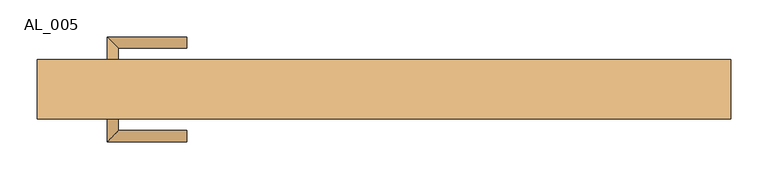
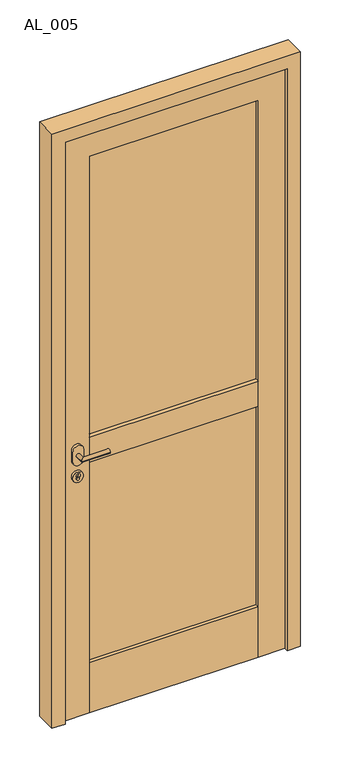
"""IFC4 building model written with IfcOpenShell, lengths in millimetres: door geometry, TRP_CP_ARC_PO_1B_RE : AL_005."""

import ifcopenshell
import ifcopenshell.guid

model = None  # the IFC model being written
_history = None  # IfcOwnerHistory: only IFC2X3 demands one
_inside = {}  # id of a spatial element -> (the spatial element, [elements in it])
_under = {}  # id of a project, library or spatial element -> (it, [spatial elements below it])
_declared = {}  # id of a project -> (the project, [libraries it declares])
_typed = {}  # id of a type object -> (the type object, [elements of that type])
_made_of = {}  # id of a material, layer set ... -> (it, [elements and type objects made of it])


def new_model(schema):
    """Start an empty IFC model of exactly this schema.

    Asked for "IFC4X3", IfcOpenShell would pick the latest addendum, in which some entities
    have other attributes; the version numbers below select the first issue.
    IFC2X3 requires an IfcOwnerHistory on every rooted entity: one is made here for all.
    """
    global model, _history
    if schema == "IFC4X3":
        model = ifcopenshell.file(schema_version=(4, 3, 0, 0))
    else:
        model = ifcopenshell.file(schema=schema)
    _inside.clear()
    _under.clear()
    _declared.clear()
    _typed.clear()
    _made_of.clear()
    _history = None
    if model.schema == "IFC2X3":
        org = make("IfcOrganization", Name="unknown")
        user = make(
            "IfcPersonAndOrganization",
            ThePerson=make("IfcPerson", FamilyName="unknown"),
            TheOrganization=org,
        )
        app = make(
            "IfcApplication",
            ApplicationDeveloper=org,
            Version="unknown",
            ApplicationFullName="unknown",
            ApplicationIdentifier="unknown",
        )
        _history = make(
            "IfcOwnerHistory",
            OwningUser=user,
            OwningApplication=app,
            ChangeAction="ADDED",
            CreationDate=0,
        )
    return model


def make(cls, **values):
    """One entity of the class cls with the attributes given. An attribute that is None is left unset."""
    return model.create_entity(
        cls, **{name: value for name, value in values.items() if value is not None}
    )


def rooted(cls, **values):
    """An entity with a GlobalId (a new one), such as an element, a storey or a relation."""
    return make(cls, GlobalId=ifcopenshell.guid.new(), OwnerHistory=_history, **values)


def si_unit(unit_type, name, prefix=None):
    """IfcSIUnit, for example si_unit("LENGTHUNIT", "METRE", prefix="MILLI")."""
    return make("IfcSIUnit", UnitType=unit_type, Prefix=prefix, Name=name)


def assignment(units):
    """IfcUnitAssignment: the units of a project."""
    return None if units is None else make("IfcUnitAssignment", Units=units)


def point(xyz):
    """IfcCartesianPoint."""
    return None if xyz is None else make("IfcCartesianPoint", Coordinates=xyz)


def direction(xyz):
    """IfcDirection."""
    return None if xyz is None else make("IfcDirection", DirectionRatios=xyz)


def frame(location, z_axis=None, x_axis=None):
    """IfcAxis2Placement3D, a coordinate frame: its origin and axes. An axis left out is left unset."""
    return make(
        "IfcAxis2Placement3D",
        Location=point(location),
        Axis=direction(z_axis),
        RefDirection=direction(x_axis),
    )


def frame_2d(location, x_axis=None):
    """IfcAxis2Placement2D, a coordinate frame in the plane: its origin and x axis."""
    return make(
        "IfcAxis2Placement2D", Location=point(location), RefDirection=direction(x_axis)
    )


def origin():
    """The frame at (0, 0, 0) with its axes left unset."""
    return frame((0.0, 0.0, 0.0))


def origin_with_axes():
    """The frame at (0, 0, 0) with the z axis (0, 0, 1) and the x axis (1, 0, 0) written out."""
    return frame((0.0, 0.0, 0.0), z_axis=(0.0, 0.0, 1.0), x_axis=(1.0, 0.0, 0.0))


def place(relative_to, where):
    """IfcLocalPlacement: puts the frame where relative to a parent placement (None: the world)."""
    return make(
        "IfcLocalPlacement", PlacementRelTo=relative_to, RelativePlacement=where
    )


def context(
    kind, dimensions, precision=None, world=None, true_north=None, identifier=None
):
    """IfcGeometricRepresentationContext, for example the 3D "Model" context."""
    return make(
        "IfcGeometricRepresentationContext",
        ContextIdentifier=identifier,
        ContextType=kind,
        CoordinateSpaceDimension=dimensions,
        Precision=precision,
        WorldCoordinateSystem=world,
        TrueNorth=true_north,
    )


def project(units=None, contexts=None):
    """IfcProject with its units and contexts."""
    return rooted(
        "IfcProject",
        Name="project",
        RepresentationContexts=contexts,
        UnitsInContext=assignment(units),
    )


def spatial(cls, under=None, at=None, **own):
    """A site, building, storey or space (cls), placed at a placement, below another one or the project."""
    s = rooted(cls, ObjectPlacement=at, **own)
    if under is not None:
        _under.setdefault(under.id(), (under, []))[1].append(s)
    return s


def polyline(points):
    """IfcPolyline through the points."""
    return make("IfcPolyline", Points=[point(p) for p in points])


def circle_curve(where, radius):
    """IfcCircle in the frame where."""
    return make("IfcCircle", Position=where, Radius=radius)


def ellipse_curve(where, semi_axis1, semi_axis2):
    """IfcEllipse in the frame where."""
    return make(
        "IfcEllipse", Position=where, SemiAxis1=semi_axis1, SemiAxis2=semi_axis2
    )


def trimmed(basis, trim1, trim2, sense, master):
    """IfcTrimmedCurve: the piece of a basis curve between two trims."""
    return make(
        "IfcTrimmedCurve",
        BasisCurve=basis,
        Trim1=trim1,
        Trim2=trim2,
        SenseAgreement=sense,
        MasterRepresentation=master,
    )


def segment(curve, same_sense, transition):
    """IfcCompositeCurveSegment."""
    return make(
        "IfcCompositeCurveSegment",
        Transition=transition,
        SameSense=same_sense,
        ParentCurve=curve,
    )


def composite_curve(segments, self_intersect=None):
    """IfcCompositeCurve: segments joined end to end."""
    return make("IfcCompositeCurve", Segments=segments, SelfIntersect=self_intersect)


def outline(outer, holes=None, kind="AREA"):
    """IfcArbitraryClosedProfileDef: a profile drawn as a closed curve; with holes, ...WithVoids."""
    if holes is None:
        return make("IfcArbitraryClosedProfileDef", ProfileType=kind, OuterCurve=outer)
    return make(
        "IfcArbitraryProfileDefWithVoids",
        ProfileType=kind,
        OuterCurve=outer,
        InnerCurves=holes,
    )


def extrude(swept, where, along, depth):
    """IfcExtrudedAreaSolid: the profile swept, set in the frame where, extruded along a direction by depth."""
    return make(
        "IfcExtrudedAreaSolid",
        SweptArea=swept,
        Position=where,
        ExtrudedDirection=direction(along),
        Depth=depth,
    )


def shape(context_of_items, identifier, shape_type, items):
    """IfcShapeRepresentation: the items that make up one representation, for example the "Body"."""
    return make(
        "IfcShapeRepresentation",
        ContextOfItems=context_of_items,
        RepresentationIdentifier=identifier,
        RepresentationType=shape_type,
        Items=items,
    )


def source(mapping_origin, context_of_items, identifier, shape_type, items):
    """IfcRepresentationMap: a shape defined once, which mapped items show again and again."""
    return make(
        "IfcRepresentationMap",
        MappingOrigin=mapping_origin,
        MappedRepresentation=shape(context_of_items, identifier, shape_type, items),
    )


def transform(
    local_origin,
    x_axis=None,
    y_axis=None,
    z_axis=None,
    scale=None,
    scale2=None,
    scale3=None,
    uniform=True,
):
    """IfcCartesianTransformationOperator3D, or its non-uniform kind. x_axis, y_axis, z_axis: its Axis1, 2, 3."""
    if uniform:
        return make(
            "IfcCartesianTransformationOperator3D",
            Axis1=direction(x_axis),
            Axis2=direction(y_axis),
            LocalOrigin=point(local_origin),
            Scale=scale,
            Axis3=direction(z_axis),
        )
    return make(
        "IfcCartesianTransformationOperator3DnonUniform",
        Axis1=direction(x_axis),
        Axis2=direction(y_axis),
        LocalOrigin=point(local_origin),
        Scale=scale,
        Axis3=direction(z_axis),
        Scale2=scale2,
        Scale3=scale3,
    )


def mapped(mapping_source, mapping_target):
    """IfcMappedItem: shows the shape of a source again, moved by a transform."""
    return make(
        "IfcMappedItem", MappingSource=mapping_source, MappingTarget=mapping_target
    )


def made_of(thing, what):
    """Note that an element or type object is made of a material, layer set ...; save() writes the relation."""
    if what is not None:
        _made_of.setdefault(what.id(), (what, []))[1].append(thing)
    return thing


def element(
    cls,
    number,
    at=None,
    inside=None,
    cuts=None,
    type_object=None,
    material=None,
    context=None,
    identifier="Body",
    shape_type=None,
    held_by="IfcProductDefinitionShape",
    body=None,
    shapes=None,
    **own,
):
    """One element of the class cls, such as IfcWall. Its Tag is "e" and its number.

    at: its placement. inside: the storey or other place that contains it. cuts: it is an
    opening in that element (IfcRelVoidsElement). A single representation is given by context,
    identifier, shape_type and body (its items); several are given by shapes. held_by: the class
    of the entity that holds the representations. save() writes the other relations.
    """
    e = rooted(cls, Tag="e%d" % number, ObjectPlacement=at, **own)
    if body is not None:
        shapes = [shape(context, identifier, shape_type, body)]
    if shapes is not None:
        e.Representation = make(held_by, Representations=shapes)
    if inside is not None:
        _inside.setdefault(inside.id(), (inside, []))[1].append(e)
    if cuts is not None:
        rooted(
            "IfcRelVoidsElement", RelatingBuildingElement=cuts, RelatedOpeningElement=e
        )
    if type_object is not None:
        _typed.setdefault(type_object.id(), (type_object, []))[1].append(e)
    return made_of(e, material)


def aggregate(whole, parts):
    """IfcRelAggregates: a whole, such as a stair, and the parts it consists of."""
    return rooted("IfcRelAggregates", RelatingObject=whole, RelatedObjects=parts)


def save(model, path):
    """Write the relations noted so far, then the file.

    IfcRelAggregates (storeys below a building ...), IfcRelContainedInSpatialStructure (elements
    in a storey), IfcRelDefinesByType, IfcRelAssociatesMaterial and IfcRelDeclares: one each for
    every whole, place, type object, material and project.
    """
    for whole, parts in _under.values():
        aggregate(whole, parts)
    for where, things in _inside.values():
        rooted(
            "IfcRelContainedInSpatialStructure",
            RelatedElements=things,
            RelatingStructure=where,
        )
    for kind, things in _typed.values():
        rooted("IfcRelDefinesByType", RelatedObjects=things, RelatingType=kind)
    for what, things in _made_of.values():
        rooted("IfcRelAssociatesMaterial", RelatedObjects=things, RelatingMaterial=what)
    for by, libraries in _declared.values():
        rooted("IfcRelDeclares", RelatingContext=by, RelatedDefinitions=libraries)
    model.write(path)


def plane_surface(at):
    """IfcPlane: the flat surface through the origin of the frame at, square to its z axis."""
    return make("IfcPlane", Position=at)


def cylinder_surface(at, radius):
    """IfcCylindricalSurface: all points at the distance radius from the z axis of the frame at."""
    return make("IfcCylindricalSurface", Position=at, Radius=radius)


def advanced_brep(points, edges, surfaces, faces):
    """IfcAdvancedBrep: a solid bounded by faces that lie on surfaces and meet in shared edges.

    An edge is (start, end): straight between two places in points (the first is 0);
    or (start, end, curve); or (start, end, curve, False) where it runs against its curve.
    A face is (place in surfaces, loops), or (place, loops, False) where it looks against
    its surface's normal. A loop lists edges by number (the first is 1), with a minus sign
    where the edge is run from its end to its start. The first loop is the outer one.
    """
    corners = [point(p) for p in points]
    vertices = [make("IfcVertexPoint", VertexGeometry=c) for c in corners]
    made = []
    for start, end, *more in edges:
        made.append(
            make(
                "IfcEdgeCurve",
                EdgeStart=vertices[start],
                EdgeEnd=vertices[end],
                EdgeGeometry=more[0] if more else make("IfcPolyline", Points=[corners[start], corners[end]]),
                SameSense=more[1] if len(more) > 1 else True,
            )
        )
    hull = []
    for where, loops, *sense in faces:
        bounds = []
        for j, loop in enumerate(loops):
            ring = [make("IfcOrientedEdge", EdgeElement=made[abs(k) - 1], Orientation=k > 0) for k in loop]
            bounds.append(
                make(
                    "IfcFaceOuterBound" if j == 0 else "IfcFaceBound",
                    Bound=make("IfcEdgeLoop", EdgeList=ring),
                    Orientation=True,
                )
            )
        hull.append(make("IfcAdvancedFace", Bounds=bounds, FaceSurface=surfaces[where], SameSense=sense[0] if sense else True))
    return make("IfcAdvancedBrep", Outer=make("IfcClosedShell", CfsFaces=hull))


def al_005_3a442bcf(model_context):
    return source(origin(), model_context, "Body", "SolidModel", [
        extrude(outline(composite_curve([segment(trimmed(circle_curve(frame_2d((962.6423564, -366.5958465)), 20.0), [point((962.6423564, -386.5958465))], [point((962.6423564, -346.5958465))], False, "CARTESIAN"), True, "CONTINUOUS"), segment(polyline([(962.6423564, -346.5958465), (964.4091537, -346.5958465)]), True, "CONTINUOUS"), segment(trimmed(circle_curve(frame_2d((964.4091537, -366.5958465)), 20.0), [point((964.4091537, -346.5958465))], [point((964.4091537, -386.5958465))], False, "CARTESIAN"), True, "CONTINUOUS"), segment(polyline([(964.4091537, -386.5958465), (962.6423564, -386.5958465)]), True, "CONTINUOUS")], self_intersect=False), holes=[composite_curve([segment(trimmed(circle_curve(frame_2d((968.375559, -366.2942691)), 7.5), [point((961.9945009, -370.2353473))], [point((961.7737354, -362.7353473))], True, "CARTESIAN"), True, "CONTINUOUS"), segment(polyline([(961.7737354, -362.7353473), (954.9866332, -362.7353473)]), True, "CONTINUOUS"), segment(trimmed(circle_curve(frame_2d((954.9866332, -366.4853473)), 3.75), [point((954.9866332, -362.7353473))], [point((954.9866332, -370.2353473))], True, "CARTESIAN"), True, "CONTINUOUS"), segment(polyline([(954.9866332, -370.2353473), (961.9945009, -370.2353473)]), True, "CONTINUOUS")], self_intersect=False)]), frame((0.0, -35.0, 0.0), z_axis=(0.0, 1.0, 0.0), x_axis=(0.0, 0.0, 1.0)), (0.0, 0.0, 1.0), 10.0),
        extrude(outline(composite_curve([segment(trimmed(circle_curve(frame_2d((962.6423564, -366.5958465)), 20.0), [point((962.6423564, -386.5958465))], [point((962.6423564, -346.5958465))], False, "CARTESIAN"), True, "CONTINUOUS"), segment(polyline([(962.6423564, -346.5958465), (964.4091537, -346.5958465)]), True, "CONTINUOUS"), segment(trimmed(circle_curve(frame_2d((964.4091537, -366.5958465)), 20.0), [point((964.4091537, -346.5958465))], [point((964.4091537, -386.5958465))], False, "CARTESIAN"), True, "CONTINUOUS"), segment(polyline([(964.4091537, -386.5958465), (962.6423564, -386.5958465)]), True, "CONTINUOUS")], self_intersect=False), holes=[composite_curve([segment(trimmed(circle_curve(frame_2d((968.375559, -366.2942691)), 7.5), [point((961.9945009, -370.2353473))], [point((961.7737354, -362.7353473))], True, "CARTESIAN"), True, "CONTINUOUS"), segment(polyline([(961.7737354, -362.7353473), (954.9866332, -362.7353473)]), True, "CONTINUOUS"), segment(trimmed(circle_curve(frame_2d((954.9866332, -366.4853473)), 3.75), [point((954.9866332, -362.7353473))], [point((954.9866332, -370.2353473))], True, "CARTESIAN"), True, "CONTINUOUS"), segment(polyline([(954.9866332, -370.2353473), (961.9945009, -370.2353473)]), True, "CONTINUOUS")], self_intersect=False)]), frame((0.0, -35.0, 0.0), z_axis=(0.0, 1.0, 0.0), x_axis=(0.0, 0.0, 1.0)), (0.0, 0.0, 1.0), 10.0),
        advanced_brep(
        [(-358.7942691, -35.0, 1049.4091537), (-373.7942691, -35.0, 1049.4091537), (-373.7942691, -70.8278773, 1049.4091537), (-358.7942691, -55.8278773, 1049.4091537), (-266.2942691, -55.8278773, 1049.4091537), (-266.2942691, -70.8278773, 1049.4091537)],
        [
            (0, 1, circle_curve(frame((-366.2942691, -35.0, 1049.4091537), z_axis=(0.0, 1.0, 0.0), x_axis=(-1.0, 0.0, 0.0)), 7.5)),
            (1, 0, circle_curve(frame((-366.2942691, -35.0, 1049.4091537), z_axis=(0.0, 1.0, 0.0), x_axis=(-1.0, 0.0, 0.0)), 7.5)),
            (1, 2),
            (2, 3, ellipse_curve(frame((-366.2942691, -63.3278773, 1049.4091537), z_axis=(-0.7071067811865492, 0.7071067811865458, 0.0), x_axis=(0.7071067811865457, 0.7071067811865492, 0.0)), 10.6066017, 7.5)),
            (3, 0),
            (3, 2, ellipse_curve(frame((-366.2942691, -63.3278773, 1049.4091537), z_axis=(-0.7071067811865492, 0.7071067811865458, 0.0), x_axis=(0.7071067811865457, 0.7071067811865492, 0.0)), 10.6066017, 7.5)),
            (4, 5, circle_curve(frame((-266.2942691, -63.3278773, 1049.4091537), z_axis=(1.0, 0.0, 0.0), x_axis=(0.0, -1.0, 0.0)), 7.5)),
            (5, 4, circle_curve(frame((-266.2942691, -63.3278773, 1049.4091537), z_axis=(1.0, 0.0, 0.0), x_axis=(0.0, -1.0, 0.0)), 7.5)),
            (2, 5),
            (4, 3),
        ],
        [
            plane_surface(frame((-366.2942691, -35.0, 1049.4091537), z_axis=(0.0, 1.0, 0.0), x_axis=(0.0, 0.0, 1.0))),
            cylinder_surface(frame((-366.2942691, -35.0, 1049.4091537), z_axis=(0.0, 1.0, 0.0), x_axis=(-1.0, 0.0, 0.0)), 7.5),
            plane_surface(frame((-266.2942691, -63.3278773, 1049.4091537), z_axis=(1.0, 0.0, 0.0), x_axis=(0.0, 0.0, 1.0))),
            cylinder_surface(frame((-366.2942691, -63.3278773, 1049.4091537), z_axis=(-1.0, 0.0, 0.0), x_axis=(0.0, -1.0, 0.0)), 7.5),
        ],
        [
            (0, [[1, 2]]),
            (1, [[3, 4, 5, -2]]),
            (1, [[-5, 6, -3, -1]]),
            (2, [[7, 8]]),
            (3, [[9, -7, 10, -4]]),
            (3, [[-10, -8, -9, -6]]),
        ],
    ),
        extrude(outline(composite_curve([segment(polyline([(1069.4091537, -386.2942691), (1029.4091537, -386.2942691)]), True, "CONTINUOUS"), segment(trimmed(circle_curve(frame_2d((1029.4091537, -366.2942691)), 20.0), [point((1029.4091537, -386.2942691))], [point((1029.4091537, -346.2942691))], False, "CARTESIAN"), True, "CONTINUOUS"), segment(polyline([(1029.4091537, -346.2942691), (1069.4091537, -346.2942691)]), True, "CONTINUOUS"), segment(trimmed(circle_curve(frame_2d((1069.4091537, -366.2942691)), 20.0), [point((1069.4091537, -346.2942691))], [point((1069.4091537, -386.2942691))], False, "CARTESIAN"), True, "CONTINUOUS")], self_intersect=False)), frame((0.0, -35.0, 0.0), z_axis=(0.0, 1.0, 0.0), x_axis=(0.0, 0.0, 1.0)), (0.0, 0.0, 1.0), 10.0),
        extrude(outline(composite_curve([segment(trimmed(circle_curve(frame_2d((962.6423564, -366.5958465)), 20.0), [point((962.6423564, -386.5958465))], [point((962.6423564, -346.5958465))], False, "CARTESIAN"), True, "CONTINUOUS"), segment(polyline([(962.6423564, -346.5958465), (964.4091537, -346.5958465)]), True, "CONTINUOUS"), segment(trimmed(circle_curve(frame_2d((964.4091537, -366.5958465)), 20.0), [point((964.4091537, -346.5958465))], [point((964.4091537, -386.5958465))], False, "CARTESIAN"), True, "CONTINUOUS"), segment(polyline([(964.4091537, -386.5958465), (962.6423564, -386.5958465)]), True, "CONTINUOUS")], self_intersect=False), holes=[composite_curve([segment(polyline([(954.9866332, -370.2353473), (961.9945009, -370.2353473)]), True, "CONTINUOUS"), segment(trimmed(circle_curve(frame_2d((968.375559, -366.2942691)), 7.5), [point((961.9945009, -370.2353473))], [point((961.7737354, -362.7353473))], True, "CARTESIAN"), True, "CONTINUOUS"), segment(polyline([(961.7737354, -362.7353473), (954.9866332, -362.7353473)]), True, "CONTINUOUS"), segment(trimmed(circle_curve(frame_2d((954.9866332, -366.4853473)), 3.75), [point((954.9866332, -362.7353473))], [point((954.9866332, -370.2353473))], True, "CARTESIAN"), True, "CONTINUOUS")], self_intersect=False)]), frame((0.0, 25.0, 0.0), z_axis=(0.0, 1.0, 0.0), x_axis=(0.0, 0.0, 1.0)), (0.0, 0.0, 1.0), 10.0),
        extrude(outline(composite_curve([segment(trimmed(circle_curve(frame_2d((962.6423564, -366.5958465)), 20.0), [point((962.6423564, -386.5958465))], [point((962.6423564, -346.5958465))], False, "CARTESIAN"), True, "CONTINUOUS"), segment(polyline([(962.6423564, -346.5958465), (964.4091537, -346.5958465)]), True, "CONTINUOUS"), segment(trimmed(circle_curve(frame_2d((964.4091537, -366.5958465)), 20.0), [point((964.4091537, -346.5958465))], [point((964.4091537, -386.5958465))], False, "CARTESIAN"), True, "CONTINUOUS"), segment(polyline([(964.4091537, -386.5958465), (962.6423564, -386.5958465)]), True, "CONTINUOUS")], self_intersect=False), holes=[composite_curve([segment(polyline([(954.9866332, -370.2353473), (961.9945009, -370.2353473)]), True, "CONTINUOUS"), segment(trimmed(circle_curve(frame_2d((968.375559, -366.2942691)), 7.5), [point((961.9945009, -370.2353473))], [point((961.7737354, -362.7353473))], True, "CARTESIAN"), True, "CONTINUOUS"), segment(polyline([(961.7737354, -362.7353473), (954.9866332, -362.7353473)]), True, "CONTINUOUS"), segment(trimmed(circle_curve(frame_2d((954.9866332, -366.4853473)), 3.75), [point((954.9866332, -362.7353473))], [point((954.9866332, -370.2353473))], True, "CARTESIAN"), True, "CONTINUOUS")], self_intersect=False)]), frame((0.0, 25.0, 0.0), z_axis=(0.0, 1.0, 0.0), x_axis=(0.0, 0.0, 1.0)), (0.0, 0.0, 1.0), 10.0),
        advanced_brep(
        [(-358.7942691, 35.0, 1049.4091537), (-373.7942691, 35.0, 1049.4091537), (-358.7942691, 55.8278773, 1049.4091537), (-373.7942691, 70.8278773, 1049.4091537), (-266.2942691, 55.8278773, 1049.4091537), (-266.2942691, 70.8278773, 1049.4091537)],
        [
            (0, 1, circle_curve(frame((-366.2942691, 35.0, 1049.4091537), z_axis=(0.0, -1.0, 0.0), x_axis=(-1.0, 0.0, 0.0)), 7.5)),
            (1, 0, circle_curve(frame((-366.2942691, 35.0, 1049.4091537), z_axis=(0.0, -1.0, 0.0), x_axis=(-1.0, 0.0, 0.0)), 7.5)),
            (0, 2),
            (2, 3, ellipse_curve(frame((-366.2942691, 63.3278773, 1049.4091537), z_axis=(-0.7071067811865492, -0.7071067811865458, 0.0), x_axis=(0.7071067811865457, -0.7071067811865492, 0.0)), 10.6066017, 7.5)),
            (3, 1),
            (3, 2, ellipse_curve(frame((-366.2942691, 63.3278773, 1049.4091537), z_axis=(-0.7071067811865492, -0.7071067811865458, 0.0), x_axis=(0.7071067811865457, -0.7071067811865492, 0.0)), 10.6066017, 7.5)),
            (4, 5, circle_curve(frame((-266.2942691, 63.3278773, 1049.4091537), z_axis=(1.0, 0.0, 0.0), x_axis=(0.0, 1.0, 0.0)), 7.5)),
            (5, 4, circle_curve(frame((-266.2942691, 63.3278773, 1049.4091537), z_axis=(1.0, 0.0, 0.0), x_axis=(0.0, 1.0, 0.0)), 7.5)),
            (2, 4),
            (5, 3),
        ],
        [
            plane_surface(frame((-366.2942691, 35.0, 1049.4091537), z_axis=(0.0, -1.0, 0.0), x_axis=(0.0, 0.0, 1.0))),
            cylinder_surface(frame((-366.2942691, 35.0, 1049.4091537), z_axis=(0.0, -1.0, 0.0), x_axis=(-1.0, 0.0, 0.0)), 7.5),
            plane_surface(frame((-266.2942691, 63.3278773, 1049.4091537), z_axis=(1.0, 0.0, 0.0), x_axis=(0.0, 0.0, 1.0))),
            cylinder_surface(frame((-366.2942691, 63.3278773, 1049.4091537), z_axis=(-1.0, 0.0, 0.0), x_axis=(0.0, 1.0, 0.0)), 7.5),
        ],
        [
            (0, [[1, 2]]),
            (1, [[-1, 3, 4, 5]]),
            (1, [[-2, -5, 6, -3]]),
            (2, [[7, 8]]),
            (3, [[-4, 9, -8, 10]]),
            (3, [[-6, -10, -7, -9]]),
        ],
    ),
        extrude(outline(composite_curve([segment(polyline([(1069.4091537, -386.2942691), (1029.4091537, -386.2942691)]), True, "CONTINUOUS"), segment(trimmed(circle_curve(frame_2d((1029.4091537, -366.2942691)), 20.0), [point((1029.4091537, -386.2942691))], [point((1029.4091537, -346.2942691))], False, "CARTESIAN"), True, "CONTINUOUS"), segment(polyline([(1029.4091537, -346.2942691), (1069.4091537, -346.2942691)]), True, "CONTINUOUS"), segment(trimmed(circle_curve(frame_2d((1069.4091537, -366.2942691)), 20.0), [point((1069.4091537, -346.2942691))], [point((1069.4091537, -386.2942691))], False, "CARTESIAN"), True, "CONTINUOUS")], self_intersect=False)), frame((0.0, 25.0, 0.0), z_axis=(0.0, 1.0, 0.0), x_axis=(0.0, 0.0, 1.0)), (0.0, 0.0, 1.0), 10.0),
        extrude(outline(polyline([(0.0, 318.5110509), (0.0, 418.5110509), (2320.0, 418.5110509), (2320.0, -418.5110509), (0.0, -418.5110509), (0.0, -318.5110509), (2220.0, -318.5110509), (2220.0, 318.5110509), (0.0, 318.5110509)])), frame((0.0, -25.0, 0.0), z_axis=(0.0, 1.0, 0.0), x_axis=(0.0, 0.0, 1.0)), (0.0, 0.0, 1.0), 50.0),
        extrude(outline(polyline([(0.0, 418.5110509), (0.0, 468.5110509), (2370.0, 468.5110509), (2370.0, -468.5110509), (0.0, -468.5110509), (0.0, -418.5110509), (2320.0, -418.5110509), (2320.0, 418.5110509), (0.0, 418.5110509)])), frame((0.0, -40.0, 0.0), z_axis=(0.0, 1.0, 0.0), x_axis=(0.0, 0.0, 1.0)), (0.0, 0.0, 1.0), 80.0),
        extrude(outline(polyline([(318.5110509, -10.0), (-318.5110509, -10.0), (-318.5110509, 10.0), (318.5110509, 10.0), (318.5110509, -10.0)])), frame((0.0, 0.0, 200.0), z_axis=(0.0, 0.0, 1.0), x_axis=(1.0, 0.0, 0.0)), (0.0, 0.0, 1.0), 800.0),
        extrude(outline(polyline([(318.5110509, -25.0), (-318.5110509, -25.0), (-318.5110509, 25.0), (318.5110509, 25.0), (318.5110509, -25.0)])), frame((0.0, 0.0, 1000.0), z_axis=(0.0, 0.0, 1.0), x_axis=(1.0, 0.0, 0.0)), (0.0, 0.0, 1.0), 100.0),
        extrude(outline(polyline([(318.5110509, -25.0), (-318.5110509, -25.0), (-318.5110509, 25.0), (318.5110509, 25.0), (318.5110509, -25.0)])), origin_with_axes(), (0.0, 0.0, 1.0), 200.0),
        extrude(outline(polyline([(318.5110509, -10.0), (-318.5110509, -10.0), (-318.5110509, 10.0), (318.5110509, 10.0), (318.5110509, -10.0)])), frame((0.0, 0.0, 1100.0), z_axis=(0.0, 0.0, 1.0), x_axis=(1.0, 0.0, 0.0)), (0.0, 0.0, 1.0), 1120.0),
    ])


if __name__ == "__main__":
    model = new_model("IFC4")
    model_context = context("Model", 3, world=origin())
    ifc_project = project(units=[si_unit("LENGTHUNIT", "METRE", prefix="MILLI")], contexts=[model_context])
    site = spatial("IfcSite", under=ifc_project)
    building = spatial("IfcBuilding", under=site)
    placement = place(None, origin())
    al_005_shape = al_005_3a442bcf(model_context)
    element("IfcDoor", 1, ObjectType="TRP_CP_ARC_PO_1B_RE : AL_005", at=placement, inside=building, context=model_context, shape_type="MappedRepresentation", body=[
        mapped(al_005_shape, transform((0.0, 0.0, 0.0), x_axis=(1.0, 0.0, 0.0), y_axis=(0.0, 1.0, 0.0), z_axis=(0.0, 0.0, 1.0))),
    ])
    save(model, "model.ifc")
